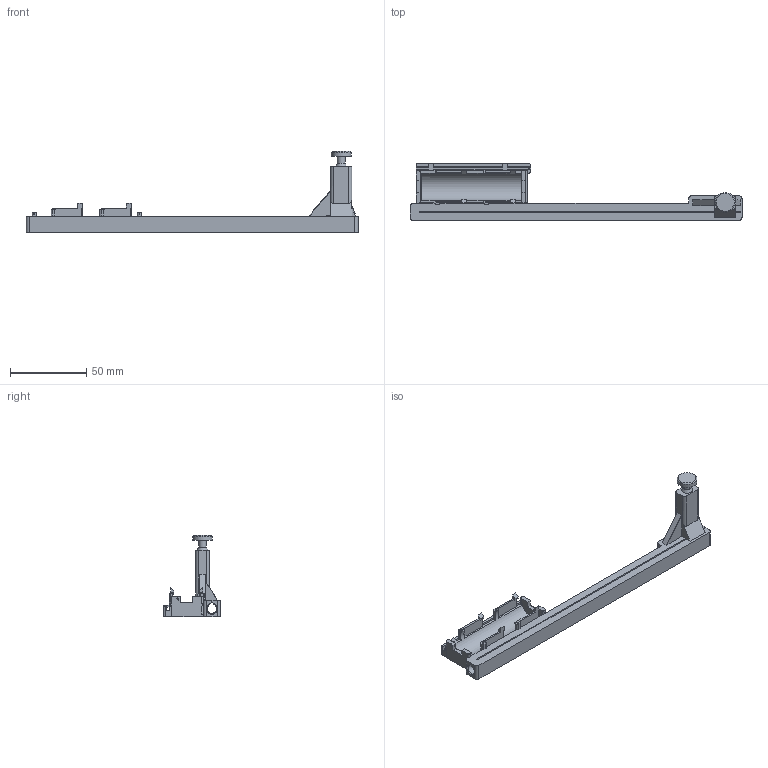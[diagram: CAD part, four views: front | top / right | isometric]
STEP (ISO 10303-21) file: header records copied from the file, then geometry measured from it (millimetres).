
FILE_DESCRIPTION(('Open CASCADE Model'),'2;1');
FILE_NAME('Open CASCADE Shape Model','2026-10-21T17:27:37',('Author'),( 'Open CASCADE'),'Open CASCADE STEP processor 7.9','Open CASCADE 7.9' ,'Unknown');
FILE_SCHEMA(('AUTOMOTIVE_DESIGN { 1 0 10303 214 1 1 1 1 }'));
Length unit declared in the file: millimetre
Products named in the file (1): Open CASCADE STEP translator 7.9 1
Bounding box: 217.64 x 37.3 x 53.2 mm (x, y, z)
Volume: 33437.7 mm3; surface area: 27797 mm2
Topology: 1 solids, 2 shells, 333 faces, 1008 edges, 666 vertices
Faces by surface type: plane 234, cylinder 95, cone 3, sphere 1
Full cylindrical faces by diameter (mm): 1.64 x2, 5 x1, 13 x1
Entity records: 25884 total; most frequent: CARTESIAN_POINT 7185, DIRECTION 3110, ORIENTED_EDGE 2014, PCURVE 2014, DEFINITIONAL_REPRESENTATION 2014, LINE 1806, VECTOR 1806, EDGE_CURVE 1007
